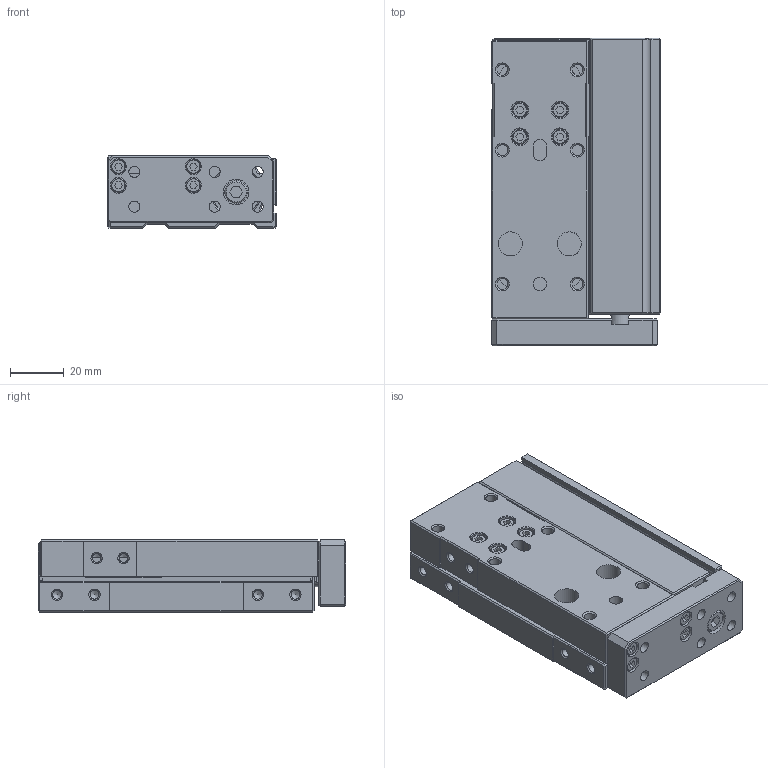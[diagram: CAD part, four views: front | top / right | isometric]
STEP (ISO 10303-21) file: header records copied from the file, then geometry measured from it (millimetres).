
FILE_DESCRIPTION((''),'2;1');
FILE_NAME('I:\3D電子目錄\氣缸\FMR(L)\FMR(L)\FMR16x50.stp','2007-10-15T16:01:06',('Administrator'),(''),'Autodesk Inventor 11','Autodesk Inventor 11','');
FILE_SCHEMA(('AUTOMOTIVE_DESIGN { 1 0 10303 214 1 1 1 1 }'));
Length unit declared in the file: millimetre
Products named in the file (1): FMR16x50
Bounding box: 63 x 114.8 x 27 mm (x, y, z)
Volume: 143679.3 mm3; surface area: 54791.7 mm2
Topology: 15 solids, 15 shells, 550 faces, 1287 edges, 811 vertices
Faces by surface type: plane 348, bspline 97, cylinder 66, cone 39
Full cylindrical faces by diameter (mm): 0.8 x2, 2 x2, 5 x4, 5.5 x8, 6 x1, 6.5 x2, 8 x3, 8.5 x1, 9 x2, 9.95 x1, 11 x1, 13 x1, 13.5 x2, 16 x3, 18 x4, 19.2 x2
Entity records: 15606 total; most frequent: CARTESIAN_POINT 3947, DIRECTION 2299, ORIENTED_EDGE 2188, EDGE_CURVE 1094, EDGE_LOOP 805, AXIS2_PLACEMENT_3D 770, VERTEX_POINT 759, VECTOR 759
